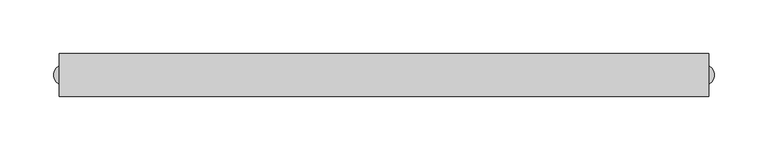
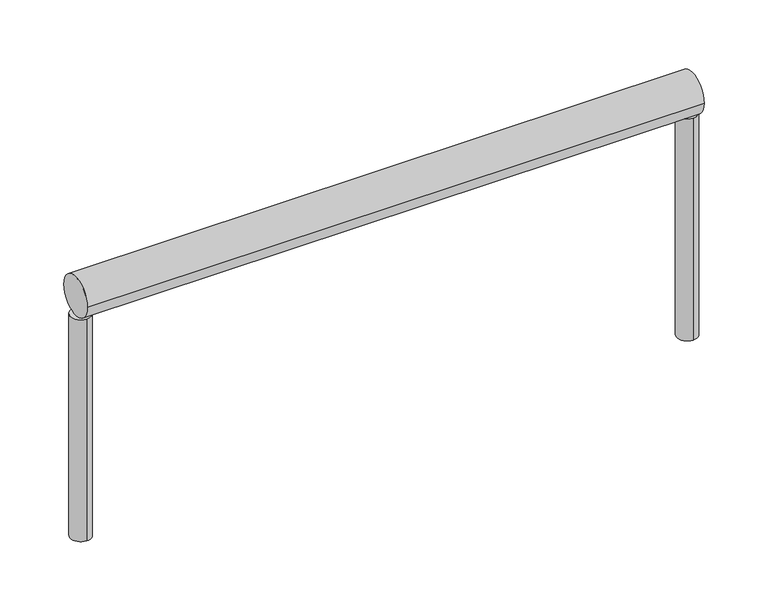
"""IFC4 building model written with IfcOpenShell, lengths in millimetres: railing geometry, Geländer-1."""

from ifc_helpers import new_model, si_unit, point, frame, frame_2d, origin, place, context, project, spatial, circle_curve, trimmed, segment, composite_curve, outline, extrude, source, transform, mapped, element, save


def railing_a572a345(model_context):
    return source(origin(), model_context, "Body", "SweptSolid", [
        extrude(outline(composite_curve([segment(trimmed(circle_curve(frame_2d((11962.6032125, 1750.0)), 20.0), [point((11942.6032125, 1750.0))], [point((11982.6032125, 1750.0))], False, "CARTESIAN"), True, "CONTINUOUS"), segment(trimmed(circle_curve(frame_2d((11962.6032125, 1750.0)), 20.0), [point((11982.6032125, 1750.0))], [point((11942.6032125, 1750.0))], False, "CARTESIAN"), True, "CONTINUOUS")], self_intersect=False)), frame((761.534665, 0.0, 0.0), z_axis=(1.0, 0.0, 0.0), x_axis=(0.0, 1.0, 0.0)), (0.0, 0.0, 1.0), 605.0),
        extrude(outline(composite_curve([segment(trimmed(circle_curve(frame_2d((766.534665, 11962.6032125)), 10.0), [point((766.534665, 11952.6032125))], [point((766.534665, 11972.6032125))], False, "CARTESIAN"), True, "CONTINUOUS"), segment(trimmed(circle_curve(frame_2d((766.534665, 11962.6032125)), 10.0), [point((766.534665, 11972.6032125))], [point((766.534665, 11952.6032125))], False, "CARTESIAN"), True, "CONTINUOUS")], self_intersect=False)), frame((0.0, 0.0, 1500.0), z_axis=(0.0, 0.0, 1.0), x_axis=(1.0, 0.0, 0.0)), (0.0, 0.0, 1.0), 230.0),
        extrude(outline(composite_curve([segment(trimmed(circle_curve(frame_2d((1361.534665, 11962.6032125)), 10.0), [point((1361.534665, 11952.6032125))], [point((1361.534665, 11972.6032125))], False, "CARTESIAN"), True, "CONTINUOUS"), segment(trimmed(circle_curve(frame_2d((1361.534665, 11962.6032125)), 10.0), [point((1361.534665, 11972.6032125))], [point((1361.534665, 11952.6032125))], False, "CARTESIAN"), True, "CONTINUOUS")], self_intersect=False)), frame((0.0, 0.0, 1500.0), z_axis=(0.0, 0.0, 1.0), x_axis=(1.0, 0.0, 0.0)), (0.0, 0.0, 1.0), 230.0),
    ])


if __name__ == "__main__":
    model = new_model("IFC4")
    model_context = context("Model", 3, world=origin())
    ifc_project = project(units=[si_unit("LENGTHUNIT", "METRE", prefix="MILLI")], contexts=[model_context])
    site = spatial("IfcSite", under=ifc_project)
    building = spatial("IfcBuilding", under=site)
    placement = place(None, origin())
    railing_shape = railing_a572a345(model_context)
    element("IfcRailing", 1, ObjectType="Geländer-1", at=placement, inside=building, context=model_context, shape_type="MappedRepresentation", body=[
        mapped(railing_shape, transform((0.0, 0.0, 0.0), x_axis=(1.0, 0.0, 0.0), y_axis=(0.0, 1.0, 0.0), z_axis=(0.0, 0.0, 1.0))),
    ])
    save(model, "model.ifc")
